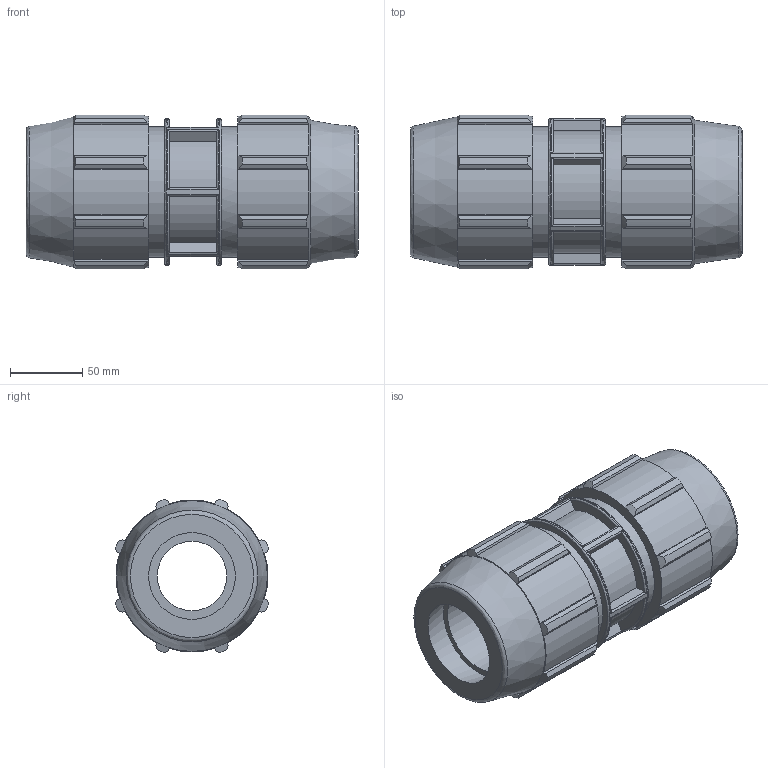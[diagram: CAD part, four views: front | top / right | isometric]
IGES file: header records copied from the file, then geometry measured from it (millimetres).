
Global section: file name: 0701M020.ipt; native system: Autodesk Inventor 2019; preprocessor: unknown; author: KIM; date: 20210826.124353; units: inch
Bounding box: 229.87 x 106.35 x 106.35 mm (x, y, z)
Volume: 1089328.3 mm3; surface area: 146531.6 mm2
Topology: 1 solids, 1 shells, 193 faces, 546 edges, 368 vertices
Faces by surface type: plane 98, cylinder 53, revolution 22, cone 20
Full cylindrical faces by diameter (mm): 90.424 x2, 101.727 x1
